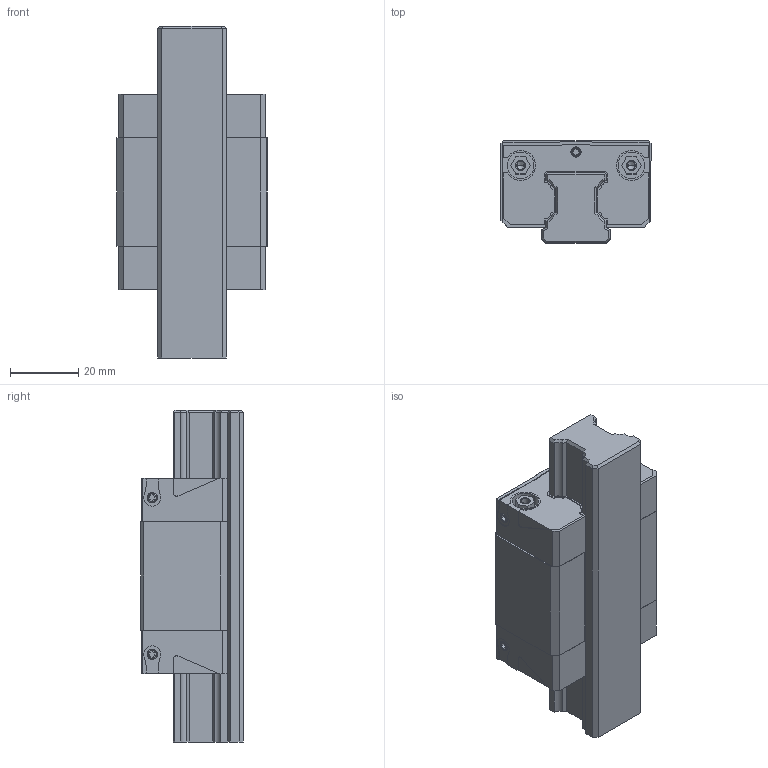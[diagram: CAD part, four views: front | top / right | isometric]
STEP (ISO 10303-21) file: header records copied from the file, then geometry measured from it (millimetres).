
FILE_DESCRIPTION((''),'2;1');
FILE_NAME('R1662_SIZE20_ASM','2020-04-16T04:05:06',('ac91sw'),(''),'CREO PARAMETRIC BY PTC INC, 2018420','CREO PARAMETRIC BY PTC INC, 2018420','');
FILE_SCHEMA(('AUTOMOTIVE_DESIGN { 1 0 10303 214 1 1 1 1 }'));
Length unit declared in the file: millimetre
Products named in the file (6): R1662_SIZE20_SKEL; R201080131; R200180102_Z; R343708901_Z; R1662_SIZE20_PSF; R1662_SIZE20_ASM
Assembly tree (11 placements, depth 2):
  R1662_SIZE20_ASM
    R1662_SIZE20_SKEL
    R201080131
    R200180102_Z  x2
    R343708901_Z  x6
    R1662_SIZE20_PSF
Bounding box: 44 x 30 x 97.3 mm (x, y, z)
Volume: 71794.4 mm3; surface area: 27699.3 mm2
Topology: 10 solids, 22 shells, 474 faces, 1224 edges, 782 vertices
Faces by surface type: plane 288, cylinder 130, cone 56
Entity records: 13074 total; most frequent: CARTESIAN_POINT 1723, DIRECTION 1372, ORIENTED_EDGE 1320, EDGE_CURVE 670, PROPERTY_DEFINITION 541, REPRESENTATION 534, PROPERTY_DEFINITION_REPRESENTATION 534, VECTOR 498
